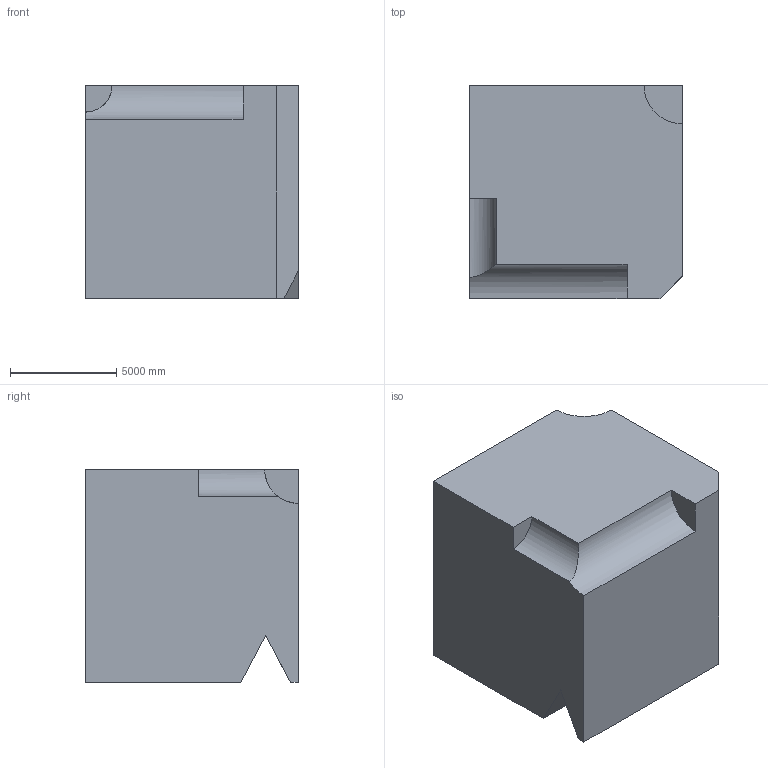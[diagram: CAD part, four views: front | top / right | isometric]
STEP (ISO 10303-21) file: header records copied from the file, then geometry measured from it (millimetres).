
FILE_DESCRIPTION (( 'STEP AP203' ), '1' );
FILE_NAME ('143.STEP', '2022-09-05T15:43:05', ( 'user' ), ( '' ), 'SwSTEP 2.0', 'SolidWorks 2021', '' );
FILE_SCHEMA (( 'CONFIG_CONTROL_DESIGN' ));
Length unit declared in the file: centimetre
Products named in the file (1): 143
Bounding box: 10000 x 10000 x 10000 mm (x, y, z)
Volume: 928806345666.6 mm3; surface area: 601027602.5 mm2
Topology: 1 solids, 1 shells, 16 faces, 42 edges, 28 vertices
Faces by surface type: plane 13, cylinder 3
Entity records: 655 total; most frequent: CARTESIAN_POINT 176, ORIENTED_EDGE 84, DIRECTION 80, EDGE_CURVE 42, LINE 36, VECTOR 36, VERTEX_POINT 28, AXIS2_PLACEMENT_3D 22
